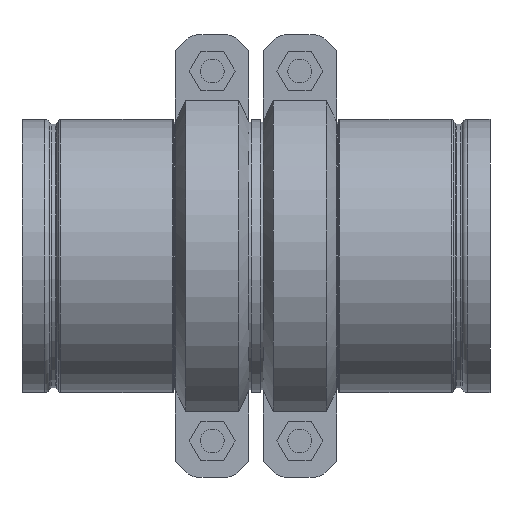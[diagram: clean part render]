
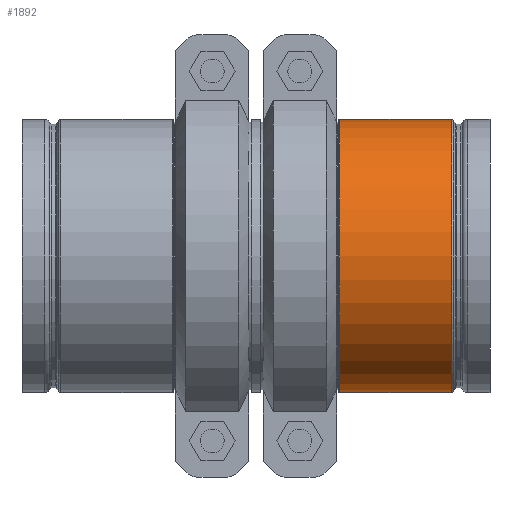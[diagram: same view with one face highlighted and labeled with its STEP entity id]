
A CAD part, front view. The second image highlights one B-rep face of the part: STEP entity #1892.
In plain terms, the highlighted cylindrical face has radius 109.537 mm (diameter 219.075 mm), a full revolution.
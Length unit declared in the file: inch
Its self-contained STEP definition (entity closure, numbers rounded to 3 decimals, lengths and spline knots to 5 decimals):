
#62=LINE('',#3104,#159);
#159=VECTOR('',#2483,4.3125);
#256=CYLINDRICAL_SURFACE('',#2133,4.3125);
#368=FACE_OUTER_BOUND('',#472,.T.);
#472=EDGE_LOOP('',(#1310,#1311,#1312,#1313,#1314,#1315,#1316,#1317));
#623=CIRCLE('',#2129,4.3125);
#624=CIRCLE('',#2130,4.3125);
#626=CIRCLE('',#2132,4.3125);
#627=CIRCLE('',#2134,4.3125);
#628=CIRCLE('',#2135,4.3125);
#629=CIRCLE('',#2136,4.3125);
#784=VERTEX_POINT('',#3091);
#785=VERTEX_POINT('',#3092);
#786=VERTEX_POINT('',#3094);
#787=VERTEX_POINT('',#3099);
#788=VERTEX_POINT('',#3100);
#789=VERTEX_POINT('',#3102);
#991=EDGE_CURVE('',#784,#785,#623,.T.);
#992=EDGE_CURVE('',#785,#786,#624,.T.);
#994=EDGE_CURVE('',#786,#784,#626,.T.);
#995=EDGE_CURVE('',#787,#788,#627,.T.);
#996=EDGE_CURVE('',#789,#787,#628,.T.);
#997=EDGE_CURVE('',#789,#785,#62,.T.);
#998=EDGE_CURVE('',#788,#789,#629,.T.);
#1310=ORIENTED_EDGE('',*,*,#995,.F.);
#1311=ORIENTED_EDGE('',*,*,#996,.F.);
#1312=ORIENTED_EDGE('',*,*,#997,.T.);
#1313=ORIENTED_EDGE('',*,*,#991,.F.);
#1314=ORIENTED_EDGE('',*,*,#994,.F.);
#1315=ORIENTED_EDGE('',*,*,#992,.F.);
#1316=ORIENTED_EDGE('',*,*,#997,.F.);
#1317=ORIENTED_EDGE('',*,*,#998,.F.);
#1892=ADVANCED_FACE('',(#368),#256,.T.);
#2129=AXIS2_PLACEMENT_3D('',#3093,#2469,#2470);
#2130=AXIS2_PLACEMENT_3D('',#3095,#2471,#2472);
#2132=AXIS2_PLACEMENT_3D('',#3097,#2475,#2476);
#2133=AXIS2_PLACEMENT_3D('',#3098,#2477,#2478);
#2134=AXIS2_PLACEMENT_3D('',#3101,#2479,#2480);
#2135=AXIS2_PLACEMENT_3D('',#3103,#2481,#2482);
#2136=AXIS2_PLACEMENT_3D('',#3105,#2484,#2485);
#2469=DIRECTION('center_axis',(-1.,0.,0.));
#2470=DIRECTION('ref_axis',(0.,-1.,0.));
#2471=DIRECTION('center_axis',(-1.,0.,0.));
#2472=DIRECTION('ref_axis',(0.,-1.,0.));
#2475=DIRECTION('center_axis',(-1.,0.,0.));
#2476=DIRECTION('ref_axis',(0.,-1.,0.));
#2477=DIRECTION('center_axis',(1.,0.,0.));
#2478=DIRECTION('ref_axis',(0.,1.,0.));
#2479=DIRECTION('center_axis',(1.,0.,0.));
#2480=DIRECTION('ref_axis',(0.,-1.,0.));
#2481=DIRECTION('center_axis',(1.,0.,0.));
#2482=DIRECTION('ref_axis',(0.,-1.,0.));
#2483=DIRECTION('',(-1.,0.,0.));
#2484=DIRECTION('center_axis',(1.,0.,0.));
#2485=DIRECTION('ref_axis',(0.,-1.,0.));
#3091=CARTESIAN_POINT('',(1.249,4.3125,0.));
#3092=CARTESIAN_POINT('',(1.249,-4.3125,0.));
#3093=CARTESIAN_POINT('Origin',(1.249,0.,0.));
#3094=CARTESIAN_POINT('',(1.249,0.,4.3125));
#3095=CARTESIAN_POINT('Origin',(1.249,0.,0.));
#3097=CARTESIAN_POINT('Origin',(1.249,0.,0.));
#3098=CARTESIAN_POINT('Origin',(3.01773,0.,0.));
#3099=CARTESIAN_POINT('',(4.78523,4.3125,0.));
#3100=CARTESIAN_POINT('',(4.78523,0.,4.3125));
#3101=CARTESIAN_POINT('Origin',(4.78523,0.,0.));
#3102=CARTESIAN_POINT('',(4.78523,-4.3125,0.));
#3103=CARTESIAN_POINT('Origin',(4.78523,0.,0.));
#3104=CARTESIAN_POINT('',(3.01773,-4.3125,0.));
#3105=CARTESIAN_POINT('Origin',(4.78523,0.,0.));
